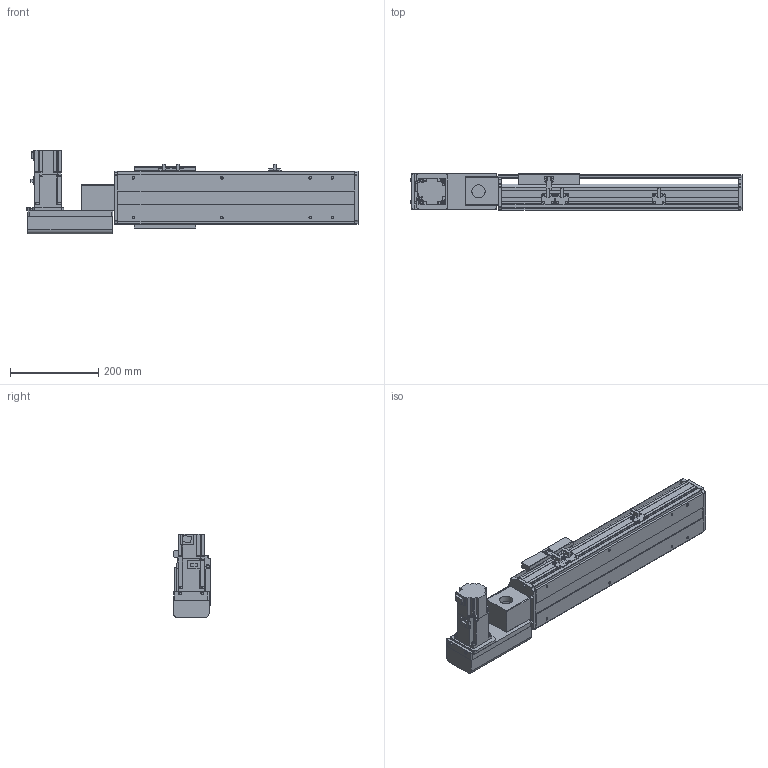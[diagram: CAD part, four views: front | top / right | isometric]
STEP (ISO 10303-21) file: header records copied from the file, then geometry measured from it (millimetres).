
FILE_DESCRIPTION(/* description */ ('STEP AP214'),/* implementation_level */ '2;1');
FILE_NAME(/* name */ 'PBS120-P40-S250-L-T40-C1-N(0)',/* time_stamp */ '2022-06-05T02:23:59+02:00',/* author */ ('License CC BY-ND 4.0'),/* organization */ ('CADENAS'),/* preprocessor_version */ 'ST-DEVELOPER v18.102',/* originating_system */ 'PARTsolutions',/* authorisation */ ' ');
FILE_SCHEMA (('AP242_MANAGED_MODEL_BASED_3D_ENGINEERING_MIM_LF { 1 0 10303 442 1 1 4 }','AUTOMOTIVE_DESIGN {1 0 10303 214 3 1 1}'));
Length unit declared in the file: millimetre
Products named in the file (7): PBS120-P40-S250-L-T40-C1-N(0); PBS120_sensor; PBS120_plant; PBS120_sliser; T40-p1; PBS120T-L_motors; PBS120-S250()_body
Assembly tree (8 placements, depth 2):
  PBS120-P40-S250-L-T40-C1-N(0)
    PBS120_sensor  x3
    PBS120_plant
    PBS120_sliser
    T40-p1
    PBS120T-L_motors
    PBS120-S250()_body
Bounding box: 751 x 83 x 189.7 mm (x, y, z)
Volume: 3519871.1 mm3; surface area: 625280.9 mm2
Topology: 8 solids, 8 shells, 804 faces, 2116 edges, 1363 vertices
Faces by surface type: plane 541, cylinder 221, cone 40, torus 2
Full cylindrical faces by diameter (mm): 2.459 x6, 3.242 x4, 4 x2, 4.134 x4, 4.5 x10, 4.917 x12, 5.5 x11, 6 x2, 6.6 x1, 7 x2, 8.5 x4, 9 x4, 12 x1, 14 x1, 30 x2, 40 x1, 50 x2
Entity records: 21114 total; most frequent: DIRECTION 3644, CARTESIAN_POINT 3605, ORIENTED_EDGE 3454, EDGE_CURVE 1727, LINE 1228, VECTOR 1228, AXIS2_PLACEMENT_3D 1208, VERTEX_POINT 1169
